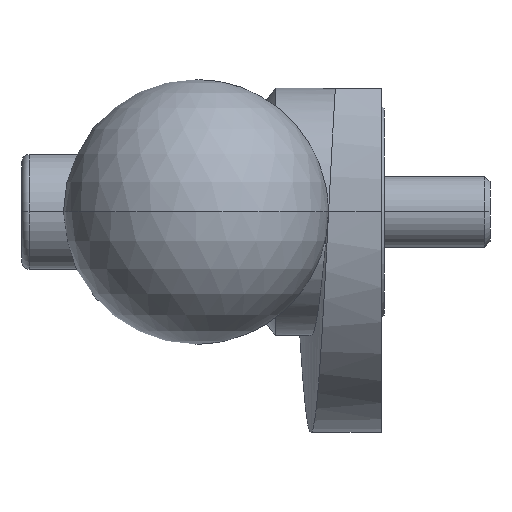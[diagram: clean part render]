
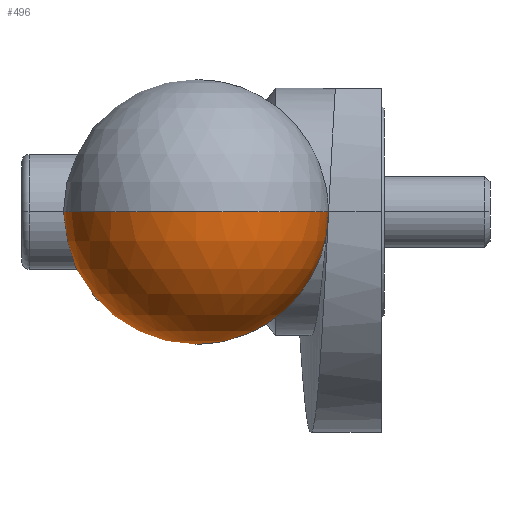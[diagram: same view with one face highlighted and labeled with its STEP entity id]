
A CAD part, left-side view. The second image highlights one B-rep face of the part: STEP entity #496.
In plain terms, the highlighted spherical face has radius 15 mm.
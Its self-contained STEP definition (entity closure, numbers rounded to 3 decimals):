
#130 = DIRECTION ( 'NONE',  ( 0., -1., 0. ) ) ;
#231 = DIRECTION ( 'NONE',  ( 0., 1., 0. ) ) ;
#427 = SPHERICAL_SURFACE ( 'NONE', #567, 15. ) ;
#441 = FACE_OUTER_BOUND ( 'NONE', #1854, .T. ) ;
#475 = DIRECTION ( 'NONE',  ( 1., 0., 0. ) ) ;
#496 = ADVANCED_FACE ( 'NONE', ( #441 ), #427, .T. ) ;
#537 = AXIS2_PLACEMENT_3D ( 'NONE', #817, #1719, #475 ) ;
#567 = AXIS2_PLACEMENT_3D ( 'NONE', #942, #1550, #130 ) ;
#658 = DIRECTION ( 'NONE',  ( 0., 0., -1. ) ) ;
#728 = AXIS2_PLACEMENT_3D ( 'NONE', #1323, #1316, #231 ) ;
#758 = ORIENTED_EDGE ( 'NONE', *, *, #1425, .F. ) ;
#817 = CARTESIAN_POINT ( 'NONE',  ( -101., 9., 0. ) ) ;
#831 = CIRCLE ( 'NONE', #728, 7.483 ) ;
#922 = EDGE_CURVE ( 'NONE', #1380, #1582, #1193, .T. ) ;
#926 = CIRCLE ( 'NONE', #1507, 15. ) ;
#942 = CARTESIAN_POINT ( 'NONE',  ( -101., 9., 0. ) ) ;
#1006 = DIRECTION ( 'NONE',  ( 0., 1., 0. ) ) ;
#1193 = CIRCLE ( 'NONE', #537, 15. ) ;
#1316 = DIRECTION ( 'NONE',  ( 1., 0., 0. ) ) ;
#1323 = CARTESIAN_POINT ( 'NONE',  ( -88., 9., 0. ) ) ;
#1380 = VERTEX_POINT ( 'NONE', #1896 ) ;
#1425 = EDGE_CURVE ( 'NONE', #1582, #1513, #831, .T. ) ;
#1450 = CARTESIAN_POINT ( 'NONE',  ( -101., 9., 0. ) ) ;
#1461 = ORIENTED_EDGE ( 'NONE', *, *, #1620, .T. ) ;
#1507 = AXIS2_PLACEMENT_3D ( 'NONE', #1450, #658, #1006 ) ;
#1513 = VERTEX_POINT ( 'NONE', #1817 ) ;
#1550 = DIRECTION ( 'NONE',  ( 0., 0., -1. ) ) ;
#1582 = VERTEX_POINT ( 'NONE', #1784 ) ;
#1620 = EDGE_CURVE ( 'NONE', #1380, #1513, #926, .T. ) ;
#1719 = DIRECTION ( 'NONE',  ( 0., 0., 1. ) ) ;
#1780 = ORIENTED_EDGE ( 'NONE', *, *, #922, .F. ) ;
#1784 = CARTESIAN_POINT ( 'NONE',  ( -88., 1.517, 0. ) ) ;
#1817 = CARTESIAN_POINT ( 'NONE',  ( -88., 16.483, 0. ) ) ;
#1854 = EDGE_LOOP ( 'NONE', ( #1780, #1461, #758 ) ) ;
#1896 = CARTESIAN_POINT ( 'NONE',  ( -116., 9., 0. ) ) ;
